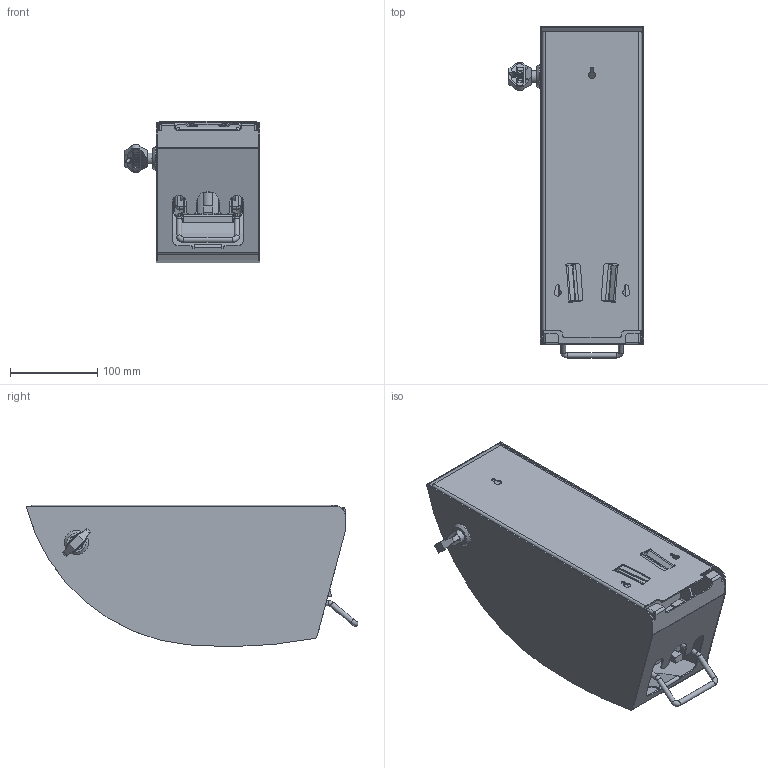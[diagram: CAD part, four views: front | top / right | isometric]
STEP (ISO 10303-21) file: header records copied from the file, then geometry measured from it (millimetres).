
FILE_DESCRIPTION((''),'2;1');
FILE_NAME('X:\Standardvarer\Dispensere til sæbe og duft\296 Dan Dryer Design manuel sæbedispenser - rustfri stål\Tegninger\Public 3D files\296 DAN DRYER DESIGN soap dispenser.stp','2013-12-10T14:22:50',('Dan Dryer'),(''),'Autodesk Inventor 2012','Autodesk Inventor 2012','');
FILE_SCHEMA(('AUTOMOTIVE_DESIGN { 1 0 10303 214 1 1 1 1 }'));
Length unit declared in the file: millimetre
Products named in the file (18): 296 - slet; 296-060; 296-061; 296-062; 296-063; 296-070; 296-072; 296-073; 296-074; 28200; 28200-2; 28200-1; 28202; 10824; 10824 - 2; 10824 - 1; 10824 - 4; 10824 - 3
Assembly tree (17 placements, depth 3):
  296 - slet
    296-060
      296-061
      296-062
      296-063
    296-070
      296-072
      296-073
      296-074
    28200
      28200-2
      28200-1
    28202
    10824
      10824 - 2
      10824 - 1
      10824 - 4
      10824 - 3
Bounding box: 156.3 x 381.36 x 162.47 mm (x, y, z)
Volume: 1955839.7 mm3; surface area: 564402.4 mm2
Topology: 13 solids, 14 shells, 820 faces, 2103 edges, 1326 vertices
Faces by surface type: plane 564, cylinder 230, bspline 12, torus 7, cone 7
Full cylindrical faces by diameter (mm): 3 x4, 4 x4, 6 x8, 6.5 x4, 10 x2, 13.5 x1, 14 x1, 16.1 x1, 19.8 x1, 20 x1, 22 x1, 26 x1, 28 x1, 43 x1, 47.5 x1
Entity records: 27109 total; most frequent: CARTESIAN_POINT 6674, DIRECTION 4126, ORIENTED_EDGE 4107, EDGE_CURVE 2055, VECTOR 1528, LINE 1528, VERTEX_POINT 1314, AXIS2_PLACEMENT_3D 1299
